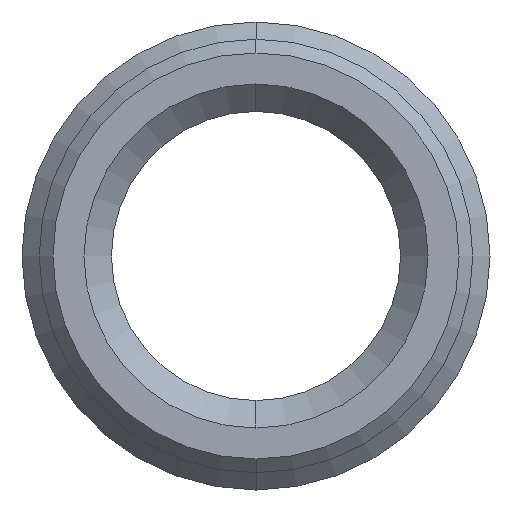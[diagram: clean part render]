
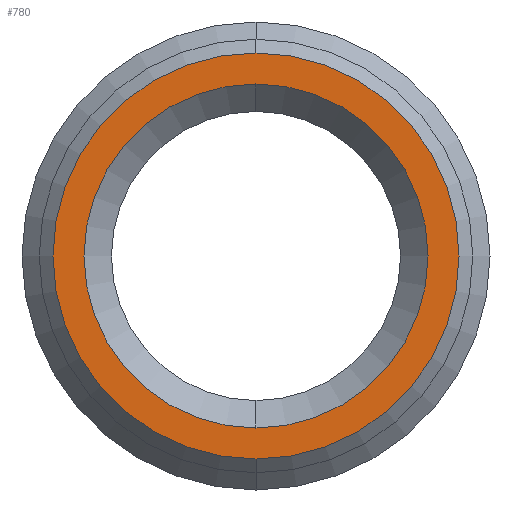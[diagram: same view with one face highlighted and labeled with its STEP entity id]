
A CAD part, left-side view. The second image highlights one B-rep face of the part: STEP entity #780.
In plain terms, the highlighted planar face has unit normal (-1, 0, 0).
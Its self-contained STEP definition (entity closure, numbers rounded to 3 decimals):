
#35 = EDGE_LOOP ( 'NONE', ( #521, #651 ) ) ;
#154 = DIRECTION ( 'NONE',  ( 1., 0., 0. ) ) ;
#164 = DIRECTION ( 'NONE',  ( 1., 0., 0. ) ) ;
#305 = AXIS2_PLACEMENT_3D ( 'NONE', #1048, #741, #479 ) ;
#324 = ORIENTED_EDGE ( 'NONE', *, *, #597, .T. ) ;
#363 = CARTESIAN_POINT ( 'NONE',  ( -4.75, 0., 0. ) ) ;
#366 = CARTESIAN_POINT ( 'NONE',  ( -4.75, 3.15, 0. ) ) ;
#373 = AXIS2_PLACEMENT_3D ( 'NONE', #1059, #164, #573 ) ;
#465 = FACE_OUTER_BOUND ( 'NONE', #35, .T. ) ;
#469 = CARTESIAN_POINT ( 'NONE',  ( -4.75, 0., 2.95 ) ) ;
#479 = DIRECTION ( 'NONE',  ( 0., 0., 1. ) ) ;
#489 = DIRECTION ( 'NONE',  ( 0., 0., 1. ) ) ;
#521 = ORIENTED_EDGE ( 'NONE', *, *, #724, .F. ) ;
#545 = VERTEX_POINT ( 'NONE', #469 ) ;
#570 = DIRECTION ( 'NONE',  ( 0., 0., 1. ) ) ;
#573 = DIRECTION ( 'NONE',  ( 0., 0., -1. ) ) ;
#597 = EDGE_CURVE ( 'NONE', #1245, #1234, #1194, .T. ) ;
#636 = CIRCLE ( 'NONE', #839, 2.95 ) ;
#651 = ORIENTED_EDGE ( 'NONE', *, *, #679, .F. ) ;
#679 = EDGE_CURVE ( 'NONE', #1224, #545, #636, .T. ) ;
#697 = CIRCLE ( 'NONE', #974, 2.5 ) ;
#701 = EDGE_CURVE ( 'NONE', #1234, #1245, #697, .T. ) ;
#724 = EDGE_CURVE ( 'NONE', #545, #1224, #864, .T. ) ;
#731 = CARTESIAN_POINT ( 'NONE',  ( -4.75, 0., -2.5 ) ) ;
#739 = ORIENTED_EDGE ( 'NONE', *, *, #701, .T. ) ;
#741 = DIRECTION ( 'NONE',  ( 1., 0., 0. ) ) ;
#762 = PLANE ( 'NONE',  #1174 ) ;
#780 = ADVANCED_FACE ( 'NONE', ( #968, #465 ), #762, .F. ) ;
#839 = AXIS2_PLACEMENT_3D ( 'NONE', #363, #1267, #489 ) ;
#864 = CIRCLE ( 'NONE', #305, 2.95 ) ;
#928 = CARTESIAN_POINT ( 'NONE',  ( -4.75, 0., 2.5 ) ) ;
#968 = FACE_BOUND ( 'NONE', #1183, .T. ) ;
#974 = AXIS2_PLACEMENT_3D ( 'NONE', #1265, #154, #1041 ) ;
#1017 = CARTESIAN_POINT ( 'NONE',  ( -4.75, 0., -2.95 ) ) ;
#1041 = DIRECTION ( 'NONE',  ( 0., 0., -1. ) ) ;
#1048 = CARTESIAN_POINT ( 'NONE',  ( -4.75, 0., 0. ) ) ;
#1059 = CARTESIAN_POINT ( 'NONE',  ( -4.75, 0., 0. ) ) ;
#1140 = DIRECTION ( 'NONE',  ( 1., 0., 0. ) ) ;
#1174 = AXIS2_PLACEMENT_3D ( 'NONE', #366, #1140, #570 ) ;
#1183 = EDGE_LOOP ( 'NONE', ( #324, #739 ) ) ;
#1194 = CIRCLE ( 'NONE', #373, 2.5 ) ;
#1224 = VERTEX_POINT ( 'NONE', #1017 ) ;
#1234 = VERTEX_POINT ( 'NONE', #731 ) ;
#1245 = VERTEX_POINT ( 'NONE', #928 ) ;
#1265 = CARTESIAN_POINT ( 'NONE',  ( -4.75, 0., 0. ) ) ;
#1267 = DIRECTION ( 'NONE',  ( 1., 0., 0. ) ) ;
